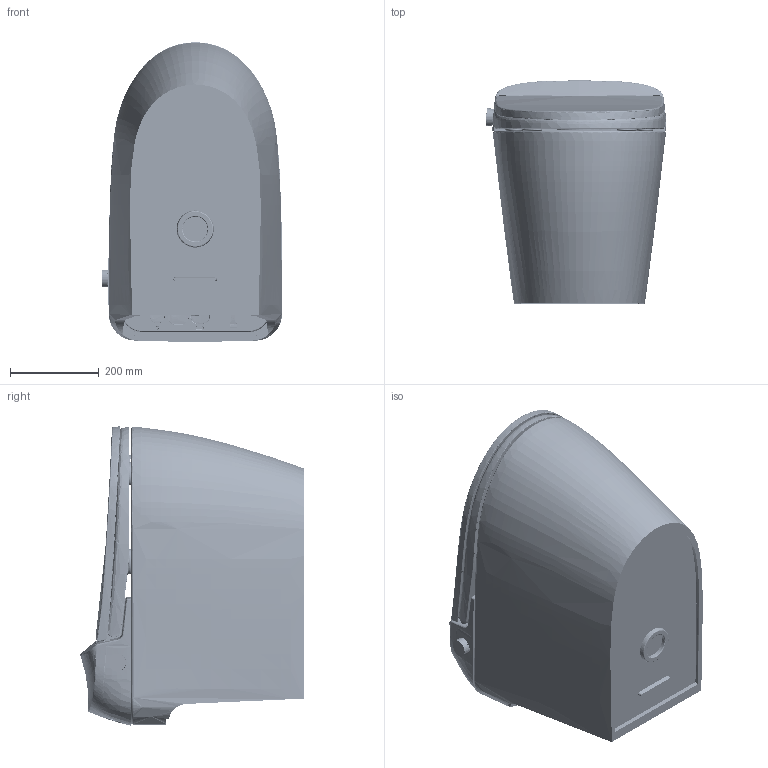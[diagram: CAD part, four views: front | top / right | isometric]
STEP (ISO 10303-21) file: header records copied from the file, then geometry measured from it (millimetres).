
FILE_DESCRIPTION(/* description */ (''),/* implementation_level */ '2;1');
FILE_NAME(/* name */ 'T8-T10-T19.stp',/* time_stamp */ '2023-10-12T15:22:09+08:00',/* author */ (''),/* organization */ (''),/* preprocessor_version */ 'ST-DEVELOPER v11',/* originating_system */ 'SIEMENS PLM Software NX 7.5',/* authorisation */ '');
FILE_SCHEMA (('CONFIG_CONTROL_DESIGN'));
Products named in the file (1): AdmiF7F5efhw
Bounding box: 408.6 x 504.75 x 676.71 mm (x, y, z)
Volume: 17467452.1 mm3; surface area: 4636461 mm2
Topology: 44 solids, 45 shells, 7301 faces, 19653 edges, 12737 vertices
Faces by surface type: plane 2546, bspline 2479, cylinder 1397, cone 506, torus 239, extrusion 88, sphere 28, revolution 18
Full cylindrical faces by diameter (mm): 2.184 x2, 2.289 x9, 2.3 x12, 2.4 x2, 2.484 x2, 2.488 x1, 2.794 x2, 3 x1, 3.2 x2, 3.3 x39, 3.4 x2, 4 x2, 4.2 x9, 4.3 x7, 4.5 x8, 5 x2, 5.97 x10, 6 x2, 7.5 x9, 7.7 x6, 8 x26, 8.22 x7, 8.5 x1, 8.6 x8, 10 x8, 11 x8, 11.1 x1, 13.93 x4, 15 x4, 16 x16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
Entity records: 443792 total; most frequent: CARTESIAN_POINT 287663, ORIENTED_EDGE 37780, DIRECTION 23476, EDGE_CURVE 18890, VERTEX_POINT 12443, AXIS2_PLACEMENT_3D 8976, B_SPLINE_CURVE_WITH_KNOTS 8803, EDGE_LOOP 8404
